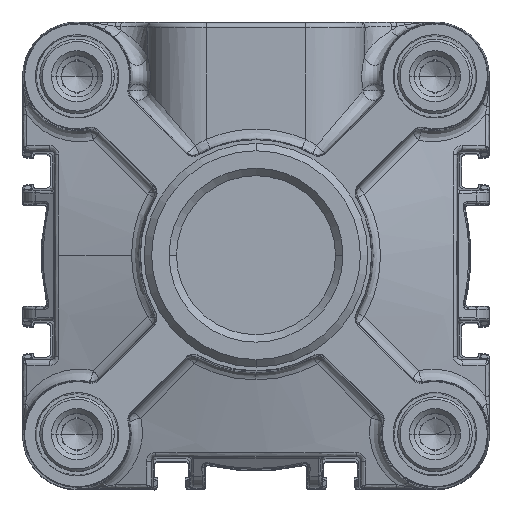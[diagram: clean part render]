
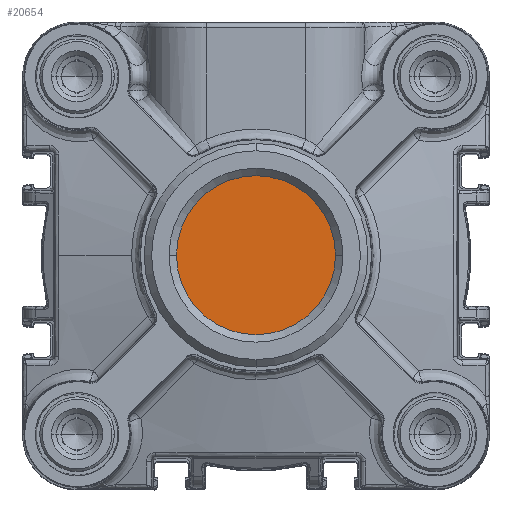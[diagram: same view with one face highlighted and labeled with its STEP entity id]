
A CAD part, top view. The second image highlights one B-rep face of the part: STEP entity #20654.
In plain terms, the highlighted planar face has unit normal (0, 0, 1).
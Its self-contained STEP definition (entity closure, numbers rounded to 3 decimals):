
#2152 = EDGE_LOOP ( 'NONE', ( #17167, #17168 ) ) ;
#4230 = AXIS2_PLACEMENT_3D ( 'NONE', #29539, #29540, #29542 ) ;
#4238 = AXIS2_PLACEMENT_3D ( 'NONE', #32628, #32629, #32630 ) ;
#4416 = AXIS2_PLACEMENT_3D ( 'NONE', #11142, #11153, #11155 ) ;
#9582 = FACE_OUTER_BOUND ( 'NONE', #2152, .T. ) ;
#11142 = CARTESIAN_POINT ( 'NONE',  ( -16.192, -16.192, 39.5 ) ) ;
#11147 = PLANE ( 'NONE',  #4416 ) ;
#11153 = DIRECTION ( 'NONE',  ( 0., 0., 1. ) ) ;
#11155 = DIRECTION ( 'NONE',  ( 1., 0., 0. ) ) ;
#14150 = CIRCLE ( 'NONE', #4230, 16. ) ;
#14197 = CIRCLE ( 'NONE', #4238, 16. ) ;
#17167 = ORIENTED_EDGE ( 'NONE', *, *, #20227, .F. ) ;
#17168 = ORIENTED_EDGE ( 'NONE', *, *, #20254, .F. ) ;
#20227 = EDGE_CURVE ( 'NONE', #38158, #38168, #14150, .T. ) ;
#20254 = EDGE_CURVE ( 'NONE', #38168, #38158, #14197, .T. ) ;
#20654 = ADVANCED_FACE ( 'NONE', ( #9582 ), #11147, .T. ) ;
#29539 = CARTESIAN_POINT ( 'NONE',  ( 0., 0., 39.5 ) ) ;
#29540 = DIRECTION ( 'NONE',  ( 0., 0., -1. ) ) ;
#29542 = DIRECTION ( 'NONE',  ( 1., 0., 0. ) ) ;
#32628 = CARTESIAN_POINT ( 'NONE',  ( 0., 0., 39.5 ) ) ;
#32629 = DIRECTION ( 'NONE',  ( 0., 0., -1. ) ) ;
#32630 = DIRECTION ( 'NONE',  ( 1., 0., 0. ) ) ;
#38158 = VERTEX_POINT ( 'NONE', #43977 ) ;
#38168 = VERTEX_POINT ( 'NONE', #43982 ) ;
#43977 = CARTESIAN_POINT ( 'NONE',  ( 16., 0., 39.5 ) ) ;
#43982 = CARTESIAN_POINT ( 'NONE',  ( -16., 0., 39.5 ) ) ;
